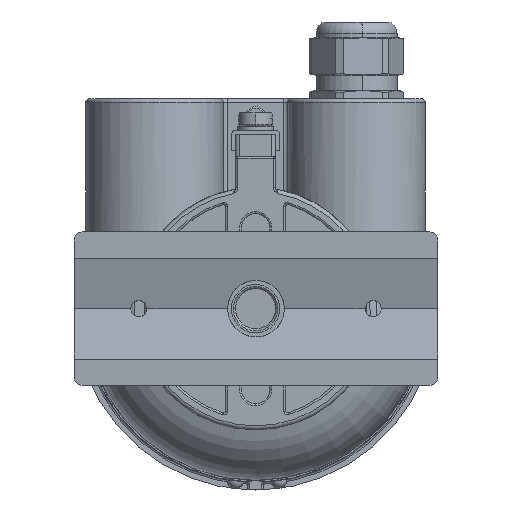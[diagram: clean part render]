
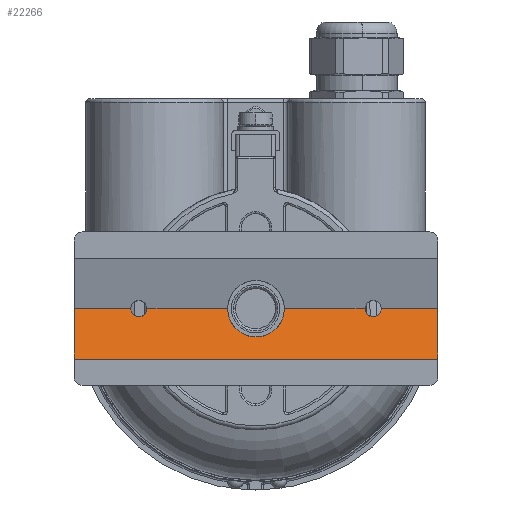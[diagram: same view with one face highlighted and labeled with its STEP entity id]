
A CAD part, front view. The second image highlights one B-rep face of the part: STEP entity #22266.
In plain terms, the highlighted planar face has unit normal (0, -0.966, 0.259).
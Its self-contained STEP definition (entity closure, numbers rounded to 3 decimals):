
#20911=DIRECTION('',(1.,0.,0.));
#20912=VECTOR('',#20911,90.);
#20913=CARTESIAN_POINT('',(-44.9,-183.,-12.464));
#20914=LINE('',#20913,#20912);
#21041=CARTESIAN_POINT('',(0.1,-181.536,-7.));
#21042=CARTESIAN_POINT('',(1.287,-181.536,-7.));
#21043=CARTESIAN_POINT('',(3.124,-181.397,
-6.48));
#21044=CARTESIAN_POINT('',(5.18,-181.007,
-5.026));
#21045=CARTESIAN_POINT('',(6.607,-180.454,
-2.964));
#21046=CARTESIAN_POINT('',(7.1,-179.968,-1.147));
#21047=CARTESIAN_POINT('',(7.1,-179.66,0.));
#21049=DIRECTION('',(1.,0.,0.));
#21050=VECTOR('',#21049,20.);
#21051=CARTESIAN_POINT('',(7.1,-179.66,0.));
#21052=LINE('',#21051,#21050);
#21053=DIRECTION('',(1.,0.,0.));
#21054=VECTOR('',#21053,14.);
#21055=CARTESIAN_POINT('',(31.1,-179.66,0.));
#21056=LINE('',#21055,#21054);
#21057=DIRECTION('',(0.,-0.259,-0.966));
#21058=VECTOR('',#21057,12.904);
#21059=CARTESIAN_POINT('',(45.1,-179.66,0.));
#21060=LINE('',#21059,#21058);
#21061=DIRECTION('',(0.,0.259,0.966));
#21062=VECTOR('',#21061,12.904);
#21063=CARTESIAN_POINT('',(-44.9,-183.,-12.464));
#21064=LINE('',#21063,#21062);
#21065=DIRECTION('',(1.,0.,0.));
#21066=VECTOR('',#21065,14.);
#21067=CARTESIAN_POINT('',(-44.9,-179.66,0.));
#21068=LINE('',#21067,#21066);
#21069=DIRECTION('',(1.,0.,0.));
#21070=VECTOR('',#21069,20.);
#21071=CARTESIAN_POINT('',(-26.9,-179.66,0.));
#21072=LINE('',#21071,#21070);
#21073=CARTESIAN_POINT('',(-6.9,-179.66,0.));
#21074=CARTESIAN_POINT('',(-6.9,-179.968,-1.147));
#21075=CARTESIAN_POINT('',(-6.407,-180.454,
-2.964));
#21076=CARTESIAN_POINT('',(-4.98,-181.007,
-5.026));
#21077=CARTESIAN_POINT('',(-2.924,-181.397,
-6.48));
#21078=CARTESIAN_POINT('',(-1.087,-181.536,-7.));
#21079=CARTESIAN_POINT('',(0.1,-181.536,-7.));
#21348=CARTESIAN_POINT('',(31.1,-179.66,0.));
#21356=CARTESIAN_POINT('',(27.1,-179.66,0.));
#21362=CARTESIAN_POINT('',(27.1,-179.66,0.));
#21363=CARTESIAN_POINT('',(27.1,-179.787,-0.471));
#21364=CARTESIAN_POINT('',(27.398,-180.009,
-1.302));
#21365=CARTESIAN_POINT('',(28.361,-180.173,
-1.915));
#21366=CARTESIAN_POINT('',(29.1,-180.208,-2.043));
#21367=CARTESIAN_POINT('',(29.839,-180.173,
-1.915));
#21368=CARTESIAN_POINT('',(30.802,-180.009,
-1.302));
#21369=CARTESIAN_POINT('',(31.1,-179.787,-0.471));
#21370=CARTESIAN_POINT('',(31.1,-179.66,0.));
#21376=CARTESIAN_POINT('',(-30.9,-179.66,0.));
#21384=CARTESIAN_POINT('',(-26.9,-179.66,0.));
#21390=CARTESIAN_POINT('',(-26.9,-179.66,0.));
#21391=CARTESIAN_POINT('',(-26.9,-179.787,-0.471));
#21392=CARTESIAN_POINT('',(-27.198,-180.009,
-1.302));
#21393=CARTESIAN_POINT('',(-28.161,-180.173,
-1.915));
#21394=CARTESIAN_POINT('',(-28.9,-180.208,-2.043));
#21395=CARTESIAN_POINT('',(-29.639,-180.173,
-1.915));
#21396=CARTESIAN_POINT('',(-30.602,-180.009,
-1.302));
#21397=CARTESIAN_POINT('',(-30.9,-179.787,-0.471));
#21398=CARTESIAN_POINT('',(-30.9,-179.66,0.));
#21876=CARTESIAN_POINT('',(-44.9,-183.,-12.464));
#21877=CARTESIAN_POINT('',(45.1,-183.,-12.464));
#21878=VERTEX_POINT('',#21876);
#21879=VERTEX_POINT('',#21877);
#22030=CARTESIAN_POINT('',(0.1,-181.536,-7.));
#22031=VERTEX_POINT('',#22030);
#22040=VERTEX_POINT('',#21376);
#22041=VERTEX_POINT('',#21384);
#22042=CARTESIAN_POINT('',(-44.9,-179.66,0.));
#22043=VERTEX_POINT('',#22042);
#22044=VERTEX_POINT('',#21348);
#22045=VERTEX_POINT('',#21356);
#22046=CARTESIAN_POINT('',(-6.9,-179.66,0.));
#22047=VERTEX_POINT('',#22046);
#22048=CARTESIAN_POINT('',(7.1,-179.66,0.));
#22049=VERTEX_POINT('',#22048);
#22050=CARTESIAN_POINT('',(45.1,-179.66,0.));
#22051=VERTEX_POINT('',#22050);
#22243=CARTESIAN_POINT('',(45.1,-183.,-12.464));
#22244=DIRECTION('',(0.,0.966,-0.259));
#22245=DIRECTION('',(0.,0.259,0.966));
#22246=AXIS2_PLACEMENT_3D('',#22243,#22244,#22245);
#22247=PLANE('',#22246);
#22249=ORIENTED_EDGE('',*,*,#22248,.T.);
#22250=ORIENTED_EDGE('',*,*,#22218,.T.);
#22252=ORIENTED_EDGE('',*,*,#22251,.T.);
#22253=ORIENTED_EDGE('',*,*,#22214,.T.);
#22254=ORIENTED_EDGE('',*,*,#22196,.T.);
#22255=ORIENTED_EDGE('',*,*,#22061,.F.);
#22257=ORIENTED_EDGE('',*,*,#22256,.T.);
#22258=ORIENTED_EDGE('',*,*,#22228,.T.);
#22260=ORIENTED_EDGE('',*,*,#22259,.F.);
#22261=ORIENTED_EDGE('',*,*,#22224,.T.);
#22263=ORIENTED_EDGE('',*,*,#22262,.T.);
#22264=EDGE_LOOP('',(#22249,#22250,#22252,#22253,#22254,#22255,#22257,#22258,
#22260,#22261,#22263));
#22265=FACE_OUTER_BOUND('',#22264,.F.);
#22266=ADVANCED_FACE('',(#22265),#22247,.F.);
#21048=B_SPLINE_CURVE_WITH_KNOTS('',3,(#21041,#21042,#21043,#21044,#21045,
#21046,#21047),.UNSPECIFIED.,.F.,.F.,(4,1,1,1,4),(0.,0.25,0.5,0.75,
1.),.UNSPECIFIED.);
#21080=B_SPLINE_CURVE_WITH_KNOTS('',3,(#21073,#21074,#21075,#21076,#21077,
#21078,#21079),.UNSPECIFIED.,.F.,.F.,(4,1,1,1,4),(0.,0.25,0.5,0.75,
1.),.UNSPECIFIED.);
#21371=B_SPLINE_CURVE_WITH_KNOTS('',3,(#21362,#21363,#21364,#21365,#21366,
#21367,#21368,#21369,#21370),.UNSPECIFIED.,.F.,.F.,(4,1,1,1,1,1,4),(0.,0.25,
0.375,0.5,0.625,0.75,1.),.UNSPECIFIED.);
#21399=B_SPLINE_CURVE_WITH_KNOTS('',3,(#21390,#21391,#21392,#21393,#21394,
#21395,#21396,#21397,#21398),.UNSPECIFIED.,.F.,.F.,(4,1,1,1,1,1,4),(0.,0.25,
0.375,0.5,0.625,0.75,1.),.UNSPECIFIED.);
#22061=EDGE_CURVE('',#21878,#21879,#20914,.T.);
#22196=EDGE_CURVE('',#22051,#21879,#21060,.T.);
#22214=EDGE_CURVE('',#22044,#22051,#21056,.T.);
#22218=EDGE_CURVE('',#22049,#22045,#21052,.T.);
#22224=EDGE_CURVE('',#22041,#22047,#21072,.T.);
#22228=EDGE_CURVE('',#22043,#22040,#21068,.T.);
#22248=EDGE_CURVE('',#22031,#22049,#21048,.T.);
#22251=EDGE_CURVE('',#22045,#22044,#21371,.T.);
#22256=EDGE_CURVE('',#21878,#22043,#21064,.T.);
#22259=EDGE_CURVE('',#22041,#22040,#21399,.T.);
#22262=EDGE_CURVE('',#22047,#22031,#21080,.T.);
